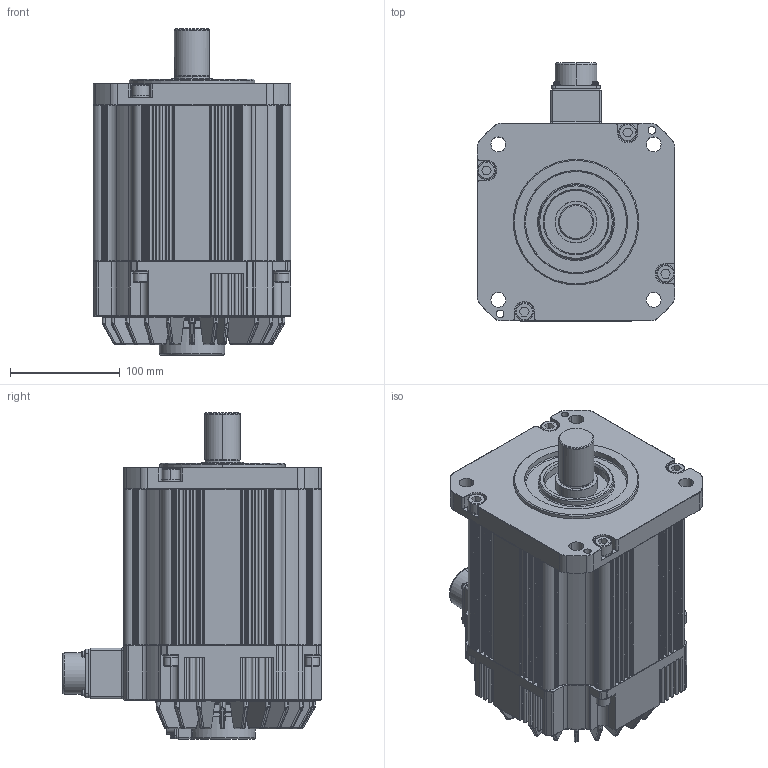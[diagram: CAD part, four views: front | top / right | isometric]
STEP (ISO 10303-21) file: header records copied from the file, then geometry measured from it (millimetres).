
FILE_DESCRIPTION((''),'2;1');
FILE_NAME('TSM3614N7300_OUTLINE_220902','2022-09-02T11:33:10',('tec1068'),('Tamagawa Seiki Co.,LTD'),'CREO PARAMETRIC BY PTC INC, 2019030','CREO PARAMETRIC BY PTC INC, 2019030','');
FILE_SCHEMA(('AUTOMOTIVE_DESIGN { 1 0 10303 214 1 1 1 1 }'));
Products named in the file (1): TSM3614N7300_OUTLINE_220902
Bounding box: 180 x 235.42 x 297.5 mm (x, y, z)
Volume: 6168058.9 mm3; surface area: 330365.8 mm2
Topology: 1 solids, 1 shells, 2751 faces, 7231 edges, 4502 vertices
Faces by surface type: plane 1143, cylinder 723, bspline 361, cone 273, torus 127, sphere 92, extrusion 32
Entity records: 131118 total; most frequent: CARTESIAN_POINT 65198, ORIENTED_EDGE 14282, DIRECTION 12994, EDGE_CURVE 7141, AXIS2_PLACEMENT_3D 4616, VERTEX_POINT 4502, VECTOR 3762, LINE 3730
